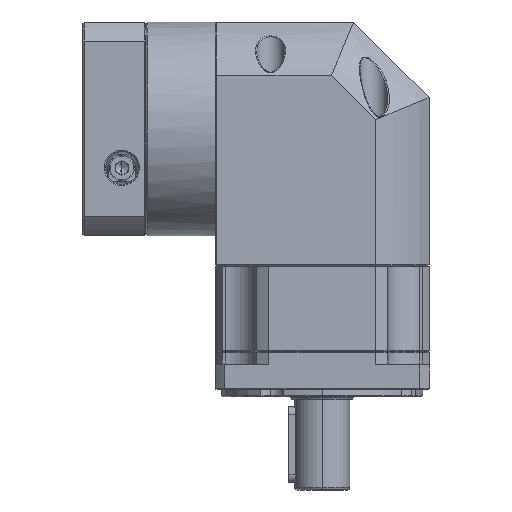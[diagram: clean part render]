
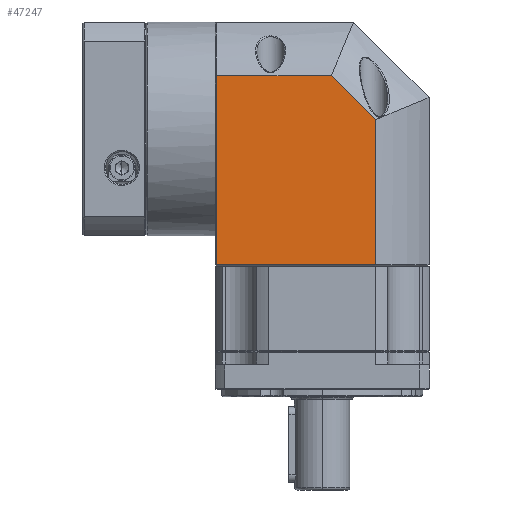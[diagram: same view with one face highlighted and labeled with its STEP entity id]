
A CAD part, left-side view. The second image highlights one B-rep face of the part: STEP entity #47247.
In plain terms, the highlighted planar face has unit normal (-1, 0, 0).
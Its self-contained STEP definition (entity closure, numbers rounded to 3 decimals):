
#413 = DIRECTION ( 'NONE',  ( 0., -1., 0. ) ) ;
#2605 = DIRECTION ( 'NONE',  ( 0., -1., 0. ) ) ;
#4356 = VECTOR ( 'NONE', #413, 1000. ) ;
#13794 = VECTOR ( 'NONE', #30633, 1000. ) ;
#14118 = FACE_OUTER_BOUND ( 'NONE', #83659, .T. ) ;
#18038 = DIRECTION ( 'NONE',  ( 0., 1., 0. ) ) ;
#21052 = VERTEX_POINT ( 'NONE', #48514 ) ;
#24945 = AXIS2_PLACEMENT_3D ( 'NONE', #136194, #71763, #18038 ) ;
#25784 = EDGE_CURVE ( 'NONE', #94064, #120952, #75702, .T. ) ;
#26109 = ORIENTED_EDGE ( 'NONE', *, *, #25784, .F. ) ;
#30633 = DIRECTION ( 'NONE',  ( 0., 0., -1. ) ) ;
#47247 = ADVANCED_FACE ( 'NONE', ( #14118 ), #61885, .F. ) ;
#48514 = CARTESIAN_POINT ( 'NONE',  ( -94.969, 9.204, 41.648 ) ) ;
#51137 = ORIENTED_EDGE ( 'NONE', *, *, #78372, .F. ) ;
#51796 = CARTESIAN_POINT ( 'NONE',  ( -94.969, 55.386, 41.648 ) ) ;
#56546 = VERTEX_POINT ( 'NONE', #85358 ) ;
#61885 = PLANE ( 'NONE',  #24945 ) ;
#63600 = VECTOR ( 'NONE', #73884, 1000. ) ;
#64838 = ORIENTED_EDGE ( 'NONE', *, *, #82402, .F. ) ;
#66205 = EDGE_CURVE ( 'NONE', #56546, #119774, #79531, .T. ) ;
#67022 = EDGE_CURVE ( 'NONE', #94064, #119774, #75880, .T. ) ;
#71763 = DIRECTION ( 'NONE',  ( 1., 0., 0. ) ) ;
#72118 = CARTESIAN_POINT ( 'NONE',  ( -94.969, 54.886, 41.648 ) ) ;
#73521 = DIRECTION ( 'NONE',  ( 0., 0., 1. ) ) ;
#73884 = DIRECTION ( 'NONE',  ( 0., -0.707, -0.707 ) ) ;
#75702 = LINE ( 'NONE', #137976, #97563 ) ;
#75880 = LINE ( 'NONE', #79848, #85987 ) ;
#77124 = LINE ( 'NONE', #138758, #63600 ) ;
#78372 = EDGE_CURVE ( 'NONE', #21052, #56546, #77124, .T. ) ;
#79531 = LINE ( 'NONE', #94263, #13794 ) ;
#79848 = CARTESIAN_POINT ( 'NONE',  ( -94.969, 55.386, -33.565 ) ) ;
#82402 = EDGE_CURVE ( 'NONE', #120952, #21052, #120536, .T. ) ;
#83659 = EDGE_LOOP ( 'NONE', ( #111510, #135300, #51137, #64838, #26109 ) ) ;
#85358 = CARTESIAN_POINT ( 'NONE',  ( -94.969, -8.327, 24.117 ) ) ;
#85987 = VECTOR ( 'NONE', #2605, 1000. ) ;
#94064 = VERTEX_POINT ( 'NONE', #139359 ) ;
#94263 = CARTESIAN_POINT ( 'NONE',  ( -94.969, -8.327, 66.435 ) ) ;
#97563 = VECTOR ( 'NONE', #73521, 1000. ) ;
#106854 = CARTESIAN_POINT ( 'NONE',  ( -94.969, -8.327, -33.565 ) ) ;
#111510 = ORIENTED_EDGE ( 'NONE', *, *, #67022, .T. ) ;
#119774 = VERTEX_POINT ( 'NONE', #106854 ) ;
#120536 = LINE ( 'NONE', #51796, #4356 ) ;
#120952 = VERTEX_POINT ( 'NONE', #72118 ) ;
#135300 = ORIENTED_EDGE ( 'NONE', *, *, #66205, .F. ) ;
#136194 = CARTESIAN_POINT ( 'NONE',  ( -94.969, 55.386, 62.935 ) ) ;
#137976 = CARTESIAN_POINT ( 'NONE',  ( -94.969, 54.886, 62.935 ) ) ;
#138758 = CARTESIAN_POINT ( 'NONE',  ( -94.969, 9.204, 41.648 ) ) ;
#139359 = CARTESIAN_POINT ( 'NONE',  ( -94.969, 54.886, -33.565 ) ) ;
